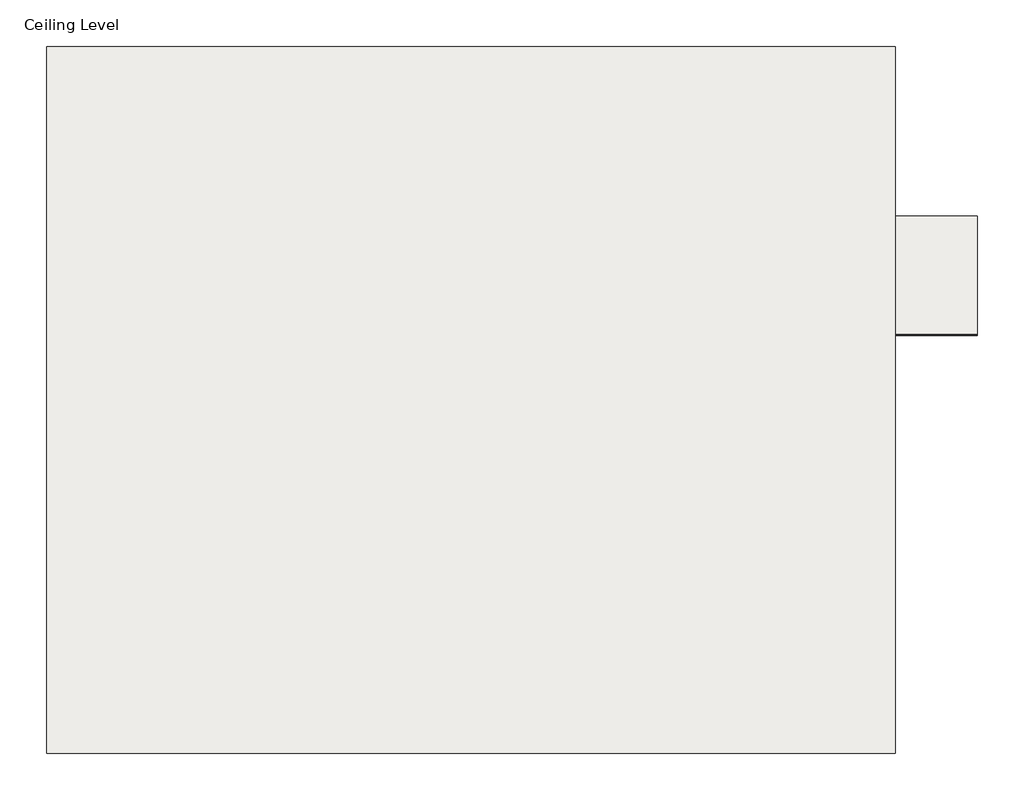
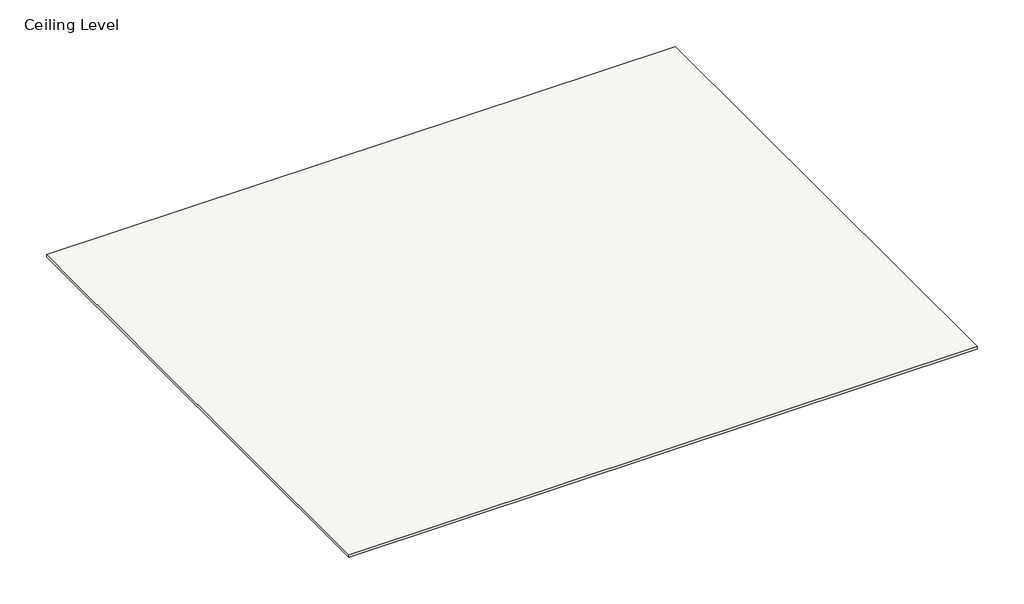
# One storey: 5 coverings.
"""IFC4 building model written with IfcOpenShell, lengths in millimetres."""

from ifc_helpers import new_model, si_unit, frame, origin, place, context, project, spatial, polyline, outline, extrude, element, save

model = new_model("IFC4")

# Units and contexts
model_context = context("Model", 3, world=origin())
ifc_project = project(units=[si_unit("LENGTHUNIT", "METRE", prefix="MILLI")], contexts=[model_context])

# Site, building, storey
site = spatial("IfcSite", under=ifc_project)
building = spatial("IfcBuilding", under=site)
storey = spatial("IfcBuildingStorey", under=building, Name="Ceiling Level", Elevation=0.0)

# Coverings
placement = place(None, origin())
element("IfcCovering", 1, ObjectType="Rockfon Tropic Plus A15 600 x 600 x 15 mm", at=placement, inside=storey, context=model_context, shape_type="SweptSolid", body=[
    extrude(outline(polyline([(-7080.9781072, 9005.7122432), (-7080.9781072, 6005.7122432), (-10680.9781072, 6005.7122432), (-10680.9781072, 9005.7122432), (-7080.9781072, 9005.7122432)])), frame((0.0, 0.0, 1.0), z_axis=(0.0, 0.0, 1.0), x_axis=(1.0, 0.0, 0.0)), (0.0, 0.0, 1.0), 15.0),
])
element("IfcCovering", 2, ObjectType="Rockfon Tropic Plus E24 600 x 600 x 20 mm", at=placement, inside=storey, context=model_context, shape_type="SweptSolid", body=[
    extrude(outline(polyline([(-6733.0033126, 8280.4374033), (-6733.0033126, 7780.4374033), (-7133.0033126, 7780.4374033), (-7133.0033126, 8280.4374033), (-6733.0033126, 8280.4374033)])), frame((0.0, 0.0, -1293.6941345), z_axis=(0.0, 0.0, 1.0), x_axis=(1.0, 0.0, 0.0)), (0.0, 0.0, 1.0), 20.0),
])
element("IfcCovering", 3, ObjectType="Rockfon Tropic Plus A15 600 x 600 x 15 mm", at=placement, inside=storey, context=model_context, shape_type="SweptSolid", body=[
    extrude(outline(polyline([(-6733.0033126, 8282.0973238), (-6733.0033126, 7782.0973238), (-7133.0033126, 7782.0973238), (-7133.0033126, 8282.0973238), (-6733.0033126, 8282.0973238)])), frame((0.0, 0.0, -1075.0992462), z_axis=(0.0, 0.0, 1.0), x_axis=(1.0, 0.0, 0.0)), (0.0, 0.0, 1.0), 15.0),
])
element("IfcCovering", 4, ObjectType="Rockfon Tropic Plus A24 600 x 600 x 20 mm", at=placement, inside=storey, context=model_context, shape_type="SweptSolid", body=[
    extrude(outline(polyline([(-6733.0033126, 8285.6100689), (-6733.0033126, 7785.6100689), (-7133.0033126, 7785.6100689), (-7133.0033126, 8285.6100689), (-6733.0033126, 8285.6100689)])), frame((0.0, 0.0, -836.7045614), z_axis=(0.0, 0.0, 1.0), x_axis=(1.0, 0.0, 0.0)), (0.0, 0.0, 1.0), 20.0),
])
element("IfcCovering", 5, ObjectType="Rockfon Tropic Plus A15 600 x 600 x 20 mm", at=placement, inside=storey, context=model_context, shape_type="SweptSolid", body=[
    extrude(outline(polyline([(-6733.0033126, 8285.6100689), (-6733.0033126, 7785.6100689), (-7133.0033126, 7785.6100689), (-7133.0033126, 8285.6100689), (-6733.0033126, 8285.6100689)])), frame((0.0, 0.0, -603.6252829), z_axis=(0.0, 0.0, 1.0), x_axis=(1.0, 0.0, 0.0)), (0.0, 0.0, 1.0), 20.0),
])

save(model, "model.ifc")
